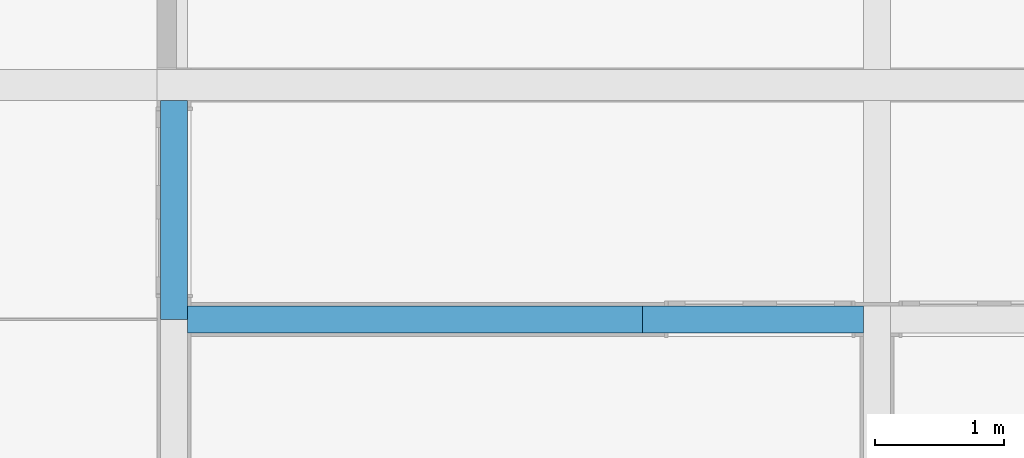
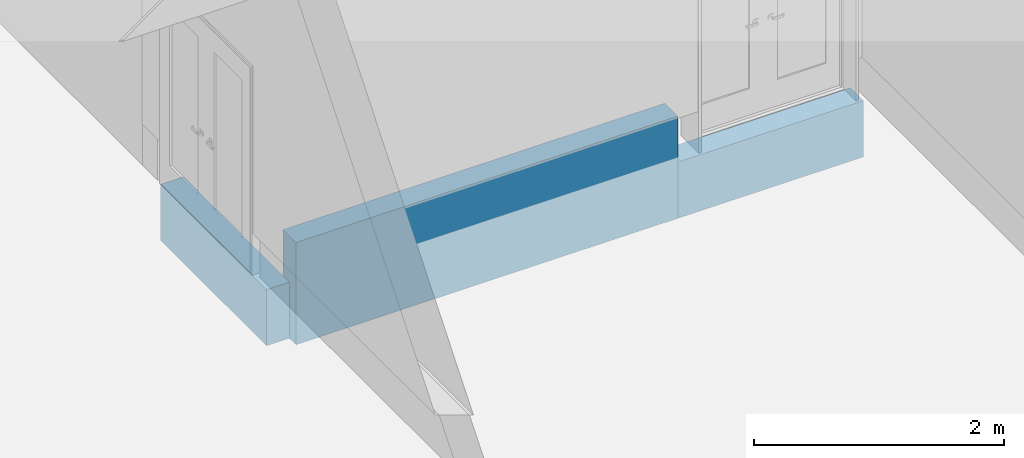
# One storey, part 3 of 22: 3 walls.
"""IFC4X3 building model written with IfcOpenShell, lengths in millimetres."""

from ifc_helpers import new_model, entity, si_unit, converted_unit, derived_unit, direction, frame, frame_2d, origin, place, context, subcontext, project, spatial, rectangle, extrude, material, layer, layer_set, type_object, element, save


model = new_model("IFC4X3")

# Units and contexts
model_context = context("Model", 3, precision=0.01, world=origin(), true_north=direction((6.12303176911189e-17, 1.0)))
body_context = subcontext(model_context, "Body", "Model", "MODEL_VIEW")
ifc_project = project(units=[si_unit("LENGTHUNIT", "METRE", prefix="MILLI"), si_unit("AREAUNIT", "SQUARE_METRE"), si_unit("VOLUMEUNIT", "CUBIC_METRE"), converted_unit("PLANEANGLEUNIT", "DEGREE", entity("IfcPlaneAngleMeasure", 0.0174532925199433), si_unit("PLANEANGLEUNIT", "RADIAN"), dimensions=[0, 0, 0, 0, 0, 0, 0]), si_unit("MASSUNIT", "GRAM", prefix="KILO"), derived_unit("MASSDENSITYUNIT", [(si_unit("MASSUNIT", "GRAM", prefix="KILO"), 1), (si_unit("LENGTHUNIT", "METRE"), -3)]), derived_unit("IONCONCENTRATIONUNIT", [(si_unit("MASSUNIT", "GRAM", prefix="KILO"), 1), (si_unit("LENGTHUNIT", "METRE"), -3)]), derived_unit("MOMENTOFINERTIAUNIT", [(si_unit("LENGTHUNIT", "METRE"), 4)]), si_unit("TIMEUNIT", "SECOND"), si_unit("FREQUENCYUNIT", "HERTZ"), si_unit("THERMODYNAMICTEMPERATUREUNIT", "DEGREE_CELSIUS"), derived_unit("THERMALTRANSMITTANCEUNIT", [(si_unit("MASSUNIT", "GRAM", prefix="KILO"), 1), (si_unit("THERMODYNAMICTEMPERATUREUNIT", "KELVIN"), -1), (si_unit("TIMEUNIT", "SECOND"), -3)]), derived_unit("THERMALCONDUCTANCEUNIT", [(si_unit("MASSUNIT", "GRAM", prefix="KILO"), 1), (si_unit("THERMODYNAMICTEMPERATUREUNIT", "KELVIN"), -1), (si_unit("TIMEUNIT", "SECOND"), -3), (si_unit("LENGTHUNIT", "METRE"), 1)]), derived_unit("VOLUMETRICFLOWRATEUNIT", [(si_unit("LENGTHUNIT", "METRE", prefix="DECI"), 3), (si_unit("TIMEUNIT", "SECOND"), -1)]), derived_unit("MASSFLOWRATEUNIT", [(si_unit("MASSUNIT", "GRAM", prefix="KILO"), 1), (si_unit("TIMEUNIT", "SECOND"), -1)]), derived_unit("ROTATIONALFREQUENCYUNIT", [(si_unit("TIMEUNIT", "SECOND"), -1)]), si_unit("ELECTRICCURRENTUNIT", "AMPERE"), si_unit("ELECTRICVOLTAGEUNIT", "VOLT"), si_unit("POWERUNIT", "WATT"), si_unit("FORCEUNIT", "NEWTON", prefix="KILO"), si_unit("ILLUMINANCEUNIT", "LUX"), si_unit("LUMINOUSFLUXUNIT", "LUMEN"), si_unit("LUMINOUSINTENSITYUNIT", "CANDELA"), si_unit("ENERGYUNIT", "JOULE"), derived_unit("USERDEFINED", [(si_unit("MASSUNIT", "GRAM", prefix="KILO"), -1), (si_unit("LENGTHUNIT", "METRE"), -2), (si_unit("TIMEUNIT", "SECOND"), 3), (si_unit("LUMINOUSFLUXUNIT", "LUMEN"), 1)]), derived_unit("USERDEFINED", [(si_unit("MASSUNIT", "GRAM", prefix="KILO"), 1), (si_unit("TIMEUNIT", "SECOND"), -3), (si_unit("LENGTHUNIT", "METRE"), 3), (si_unit("ELECTRICCURRENTUNIT", "AMPERE"), -2)]), derived_unit("SOUNDPOWERUNIT", [(si_unit("MASSUNIT", "GRAM", prefix="KILO"), 1), (si_unit("TIMEUNIT", "SECOND"), -3), (si_unit("LENGTHUNIT", "METRE"), 2)]), derived_unit("SOUNDPRESSUREUNIT", [(si_unit("MASSUNIT", "GRAM", prefix="KILO"), 1), (si_unit("LENGTHUNIT", "METRE"), -1), (si_unit("TIMEUNIT", "SECOND"), -2)]), derived_unit("LINEARVELOCITYUNIT", [(si_unit("LENGTHUNIT", "METRE"), 1), (si_unit("TIMEUNIT", "SECOND"), -1)]), si_unit("PRESSUREUNIT", "PASCAL"), derived_unit("USERDEFINED", [(si_unit("MASSUNIT", "GRAM", prefix="KILO"), 1), (si_unit("LENGTHUNIT", "METRE"), -2), (si_unit("TIMEUNIT", "SECOND"), -2)]), derived_unit("LINEARFORCEUNIT", [(si_unit("MASSUNIT", "GRAM", prefix="KILO"), 1), (si_unit("TIMEUNIT", "SECOND"), -2)]), derived_unit("PLANARFORCEUNIT", [(si_unit("MASSUNIT", "GRAM", prefix="KILO"), 1), (si_unit("LENGTHUNIT", "METRE"), -1), (si_unit("TIMEUNIT", "SECOND"), -2)]), derived_unit("SPECIFICHEATCAPACITYUNIT", [(si_unit("THERMODYNAMICTEMPERATUREUNIT", "KELVIN"), -1), (si_unit("LENGTHUNIT", "METRE"), 2), (si_unit("TIMEUNIT", "SECOND"), -2)]), derived_unit("HEATFLUXDENSITYUNIT", [(si_unit("MASSUNIT", "GRAM", prefix="KILO"), 1), (si_unit("TIMEUNIT", "SECOND"), -3)]), derived_unit("HEATINGVALUEUNIT", [(si_unit("LENGTHUNIT", "METRE"), 2), (si_unit("TIMEUNIT", "SECOND"), -2)]), derived_unit("VAPORPERMEABILITYUNIT", [(si_unit("LENGTHUNIT", "METRE"), -1), (si_unit("TIMEUNIT", "SECOND"), 1)]), derived_unit("DYNAMICVISCOSITYUNIT", [(si_unit("MASSUNIT", "GRAM", prefix="KILO"), 1), (si_unit("TIMEUNIT", "SECOND"), -1), (si_unit("LENGTHUNIT", "METRE"), -1)]), derived_unit("THERMALEXPANSIONCOEFFICIENTUNIT", [(si_unit("THERMODYNAMICTEMPERATUREUNIT", "KELVIN"), -1)]), derived_unit("MODULUSOFELASTICITYUNIT", [(si_unit("MASSUNIT", "GRAM", prefix="KILO"), 1), (si_unit("LENGTHUNIT", "METRE"), -1), (si_unit("TIMEUNIT", "SECOND"), -2)]), derived_unit("ISOTHERMALMOISTURECAPACITYUNIT", [(si_unit("MASSUNIT", "GRAM", prefix="KILO"), -1), (si_unit("LENGTHUNIT", "METRE"), 3)]), derived_unit("MOISTUREDIFFUSIVITYUNIT", [(si_unit("TIMEUNIT", "SECOND"), -1), (si_unit("LENGTHUNIT", "METRE"), 2)]), derived_unit("AREADENSITYUNIT", [(si_unit("MASSUNIT", "GRAM", prefix="KILO"), 1), (si_unit("LENGTHUNIT", "METRE"), 2)]), derived_unit("MASSPERLENGTHUNIT", [(si_unit("MASSUNIT", "GRAM", prefix="KILO"), 1), (si_unit("LENGTHUNIT", "METRE"), -1)]), derived_unit("THERMALRESISTANCEUNIT", [(si_unit("MASSUNIT", "GRAM", prefix="KILO"), -1), (si_unit("TIMEUNIT", "SECOND"), 3), (si_unit("THERMODYNAMICTEMPERATUREUNIT", "KELVIN"), 1)]), derived_unit("ACCELERATIONUNIT", [(si_unit("LENGTHUNIT", "METRE"), 1), (si_unit("TIMEUNIT", "SECOND"), -2)]), derived_unit("ANGULARVELOCITYUNIT", [(si_unit("TIMEUNIT", "SECOND"), -1), (si_unit("PLANEANGLEUNIT", "RADIAN"), 1)]), derived_unit("LINEARSTIFFNESSUNIT", [(si_unit("MASSUNIT", "GRAM", prefix="KILO"), 1), (si_unit("TIMEUNIT", "SECOND"), -2)]), derived_unit("WARPINGCONSTANTUNIT", [(si_unit("LENGTHUNIT", "METRE"), 6)]), derived_unit("LINEARMOMENTUNIT", [(si_unit("MASSUNIT", "GRAM", prefix="KILO"), 1), (si_unit("LENGTHUNIT", "METRE"), 1), (si_unit("TIMEUNIT", "SECOND"), -2)]), derived_unit("TORQUEUNIT", [(si_unit("MASSUNIT", "GRAM", prefix="KILO"), 1), (si_unit("LENGTHUNIT", "METRE"), 2), (si_unit("TIMEUNIT", "SECOND"), -2)])], contexts=[model_context])

# Site, building, storey
site_placement = place(None, origin())
site = spatial("IfcSite", under=ifc_project, at=site_placement, Name="Default", CompositionType="ELEMENT")
building_placement = place(site_placement, origin())
building = spatial("IfcBuilding", under=site, at=building_placement, Name="事務所ビル", CompositionType="ELEMENT")
storey_placement = place(building_placement, origin())
storey = spatial("IfcBuildingStorey", under=building, at=storey_placement, Name="1FL", CompositionType="ELEMENT", Elevation=0.0)

# Walls
ifc_material = material(Name="*コンクリート")
ifc_layer_1 = layer(ifc_material, 210.0, Name="*コンクリート")
ifc_layer_set_1 = layer_set([ifc_layer_1], Name="標準壁:(基礎梁)RC_w210h650")
wall_type_1 = type_object("IfcWallType", Name="標準壁:(基礎梁)RC_w210h650", PredefinedType="STANDARD", material=ifc_layer_set_1)
wall_1_placement = place(storey_placement, frame((10920.0, 5460.0, -600.0), z_axis=(0.0, 0.0, 1.0), x_axis=(0.0, 1.0, 0.0)))
element("IfcWall", 1, at=wall_1_placement, inside=storey, type_object=wall_type_1, material=ifc_layer_set_1, Name="標準壁:(基礎梁)RC_w210h650", ObjectType="標準壁:(基礎梁)RC_w210h650", PredefinedType="NOTDEFINED", context=body_context, shape_type="SweptSolid", body=[
    extrude(rectangle(XDim=1700.0, YDim=210.0, at=frame_2d((850.0, 3.19744231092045e-13), x_axis=(-1.0, 0.0))), origin(), (0.0, 0.0, 1.0), 550.0),
])
wall_2_placement = place(storey_placement, frame((14560.0, 5460.0, -600.0)))
element("IfcWall", 2, at=wall_2_placement, inside=storey, type_object=wall_type_1, material=ifc_layer_set_1, Name="標準壁:(基礎梁)RC_w210h650", ObjectType="標準壁:(基礎梁)RC_w210h650", PredefinedType="NOTDEFINED", context=body_context, shape_type="SweptSolid", body=[
    extrude(rectangle(XDim=1715.0, YDim=210.0, at=frame_2d((857.500000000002, 9.9475983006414e-14), x_axis=(-1.0, 0.0))), origin(), (0.0, 0.0, 1.0), 550.0),
])
ifc_layer_2 = layer(ifc_material, 210.0, Name="*コンクリート")
ifc_layer_set_2 = layer_set([ifc_layer_2], Name="標準壁:(基礎梁)RC_w210h1000")
wall_type_2 = type_object("IfcWallType", Name="標準壁:(基礎梁)RC_w210h1000", PredefinedType="STANDARD", material=ifc_layer_set_2)
wall_3_placement = place(storey_placement, frame((11025.0, 5460.0, -600.0)))
element("IfcWall", 3, at=wall_3_placement, inside=storey, type_object=wall_type_2, material=ifc_layer_set_2, Name="標準壁:(基礎梁)RC_w210h1000", ObjectType="標準壁:(基礎梁)RC_w210h1000", PredefinedType="NOTDEFINED", context=body_context, shape_type="SweptSolid", body=[
    extrude(rectangle(XDim=3535.0, YDim=210.0, at=frame_2d((1767.5, -1.70530256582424e-13), x_axis=(-1.0, 0.0))), origin(), (0.0, 0.0, 1.0), 1000.0),
])

save(model, "model.ifc")
